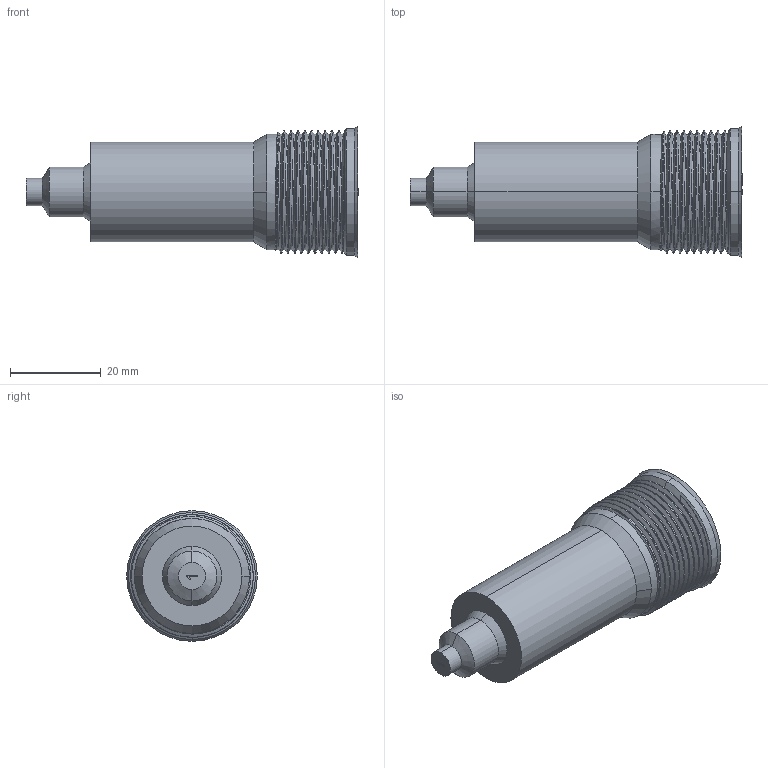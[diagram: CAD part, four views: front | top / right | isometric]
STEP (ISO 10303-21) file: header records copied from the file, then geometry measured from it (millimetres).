
FILE_DESCRIPTION (( 'STEP AP214' ), '1' );
FILE_NAME ('SEP-22.STEP', '2015-05-08T07:22:16', ( '' ), ( '' ), 'SwSTEP 2.0', 'SolidWorks 2014', '' );
FILE_SCHEMA (( 'AUTOMOTIVE_DESIGN' ));
Length unit declared in the file: millimetre
Products named in the file (1): SEP-22
Bounding box: 73.2 x 28.8 x 28.8 mm (x, y, z)
Volume: 26887.6 mm3; surface area: 6597.9 mm2
Topology: 1 solids, 1 shells, 80 faces, 209 edges, 135 vertices
Faces by surface type: cylinder 30, bspline 22, plane 18, cone 10
Entity records: 6140 total; most frequent: CARTESIAN_POINT 3923, ORIENTED_EDGE 418, DIRECTION 269, EDGE_CURVE 209, VERTEX_POINT 135, VECTOR 95, LINE 95, AXIS2_PLACEMENT_3D 87
